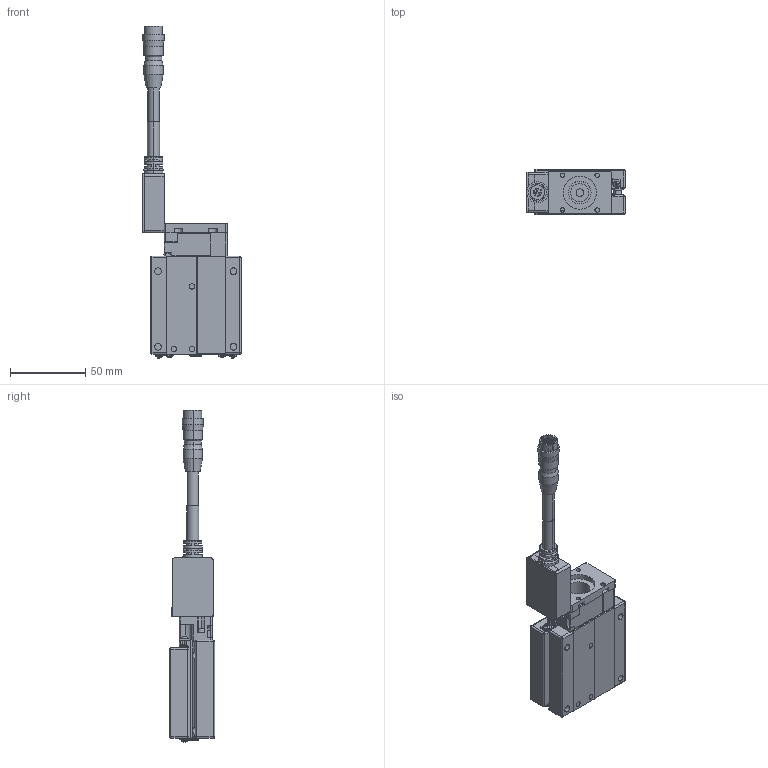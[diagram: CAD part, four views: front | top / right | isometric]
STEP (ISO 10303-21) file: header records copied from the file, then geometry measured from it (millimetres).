
FILE_DESCRIPTION (( 'STEP AP203' ), '1' );
FILE_NAME ('CXS6020(28框無馬達).STEP', '2023-12-25T06:58:00', ( '' ), ( '' ), 'SwSTEP 2.0', 'SolidWorks 2019', '' );
FILE_SCHEMA (( 'CONFIG_CONTROL_DESIGN' ));
Length unit declared in the file: millimetre
Products named in the file (5): HR10A-10J-12P; CXS6020(28框無馬達); Group2^CXS6020(28框無馬達)_defeature_GMT; Group1^CXS6020(28框無馬達)_defeature_GMT; CXS6020-05-00-1^CXS6020(28框無馬達)_defeature_GMT
Assembly tree (4 placements, depth 2):
  CXS6020(28框無馬達)
    Group1^CXS6020(28框無馬達)_defeature_GMT
    Group2^CXS6020(28框無馬達)_defeature_GMT
    CXS6020-05-00-1^CXS6020(28框無馬達)_defeature_GMT
    HR10A-10J-12P
Bounding box: 65 x 30 x 219.93 mm (x, y, z)
Volume: 113850 mm3; surface area: 53837.5 mm2
Topology: 7 solids, 7 shells, 4449 faces, 11402 edges, 7174 vertices
Faces by surface type: plane 2396, bspline 1066, cylinder 693, cone 133, sphere 118, torus 43
Entity records: 147120 total; most frequent: CARTESIAN_POINT 47787, ORIENTED_EDGE 22616, DIRECTION 16543, EDGE_CURVE 11308, VERTEX_POINT 7174, VECTOR 6357, LINE 6357, AXIS2_PLACEMENT_3D 5093
